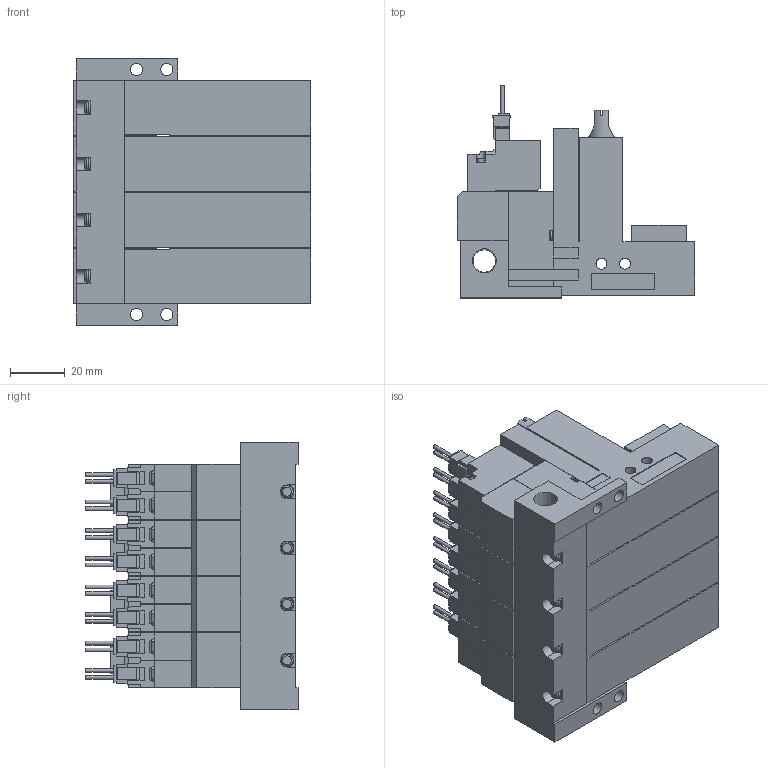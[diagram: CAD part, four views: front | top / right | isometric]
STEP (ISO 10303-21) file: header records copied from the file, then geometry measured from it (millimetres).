
FILE_DESCRIPTION(('STEP AP203'),'1');
FILE_NAME('ZL5BLR404.stp','2025-02-18T23:26:47',(' '),(' '),'Spatial InterOp 3D',' ',' ');
FILE_SCHEMA(('CONFIG_CONTROL_DESIGN'));
Length unit declared in the file: millimetre
Products named in the file (5): BMC22M※※※※ZL5BLR404; Solenoid valve B; Pressure sensor ZL; Unit L; Base MR40R
Assembly tree (13 placements, depth 2):
  BMC22M※※※※ZL5BLR404
    Solenoid valve B  x4
    Pressure sensor ZL  x4
    Unit L  x4
    Base MR40R
Bounding box: 86.6 x 77.45 x 97.5 mm (x, y, z)
Volume: 308298.6 mm3; surface area: 87983.8 mm2
Topology: 13 solids, 13 shells, 1309 faces, 3563 edges, 2352 vertices
Faces by surface type: plane 1126, cylinder 141, cone 30, torus 12
Full cylindrical faces by diameter (mm): 1.4 x16, 2.5 x4, 3 x16, 3.5 x16, 3.6 x4, 4 x8, 4.134 x4, 4.5 x4, 5.2 x4, 6 x4, 6.6 x4, 8.279 x1
Entity records: 12242 total; most frequent: CARTESIAN_POINT 2317, DIRECTION 1936, ORIENTED_EDGE 1928, EDGE_CURVE 964, LINE 792, VECTOR 792, VERTEX_POINT 673, AXIS2_PLACEMENT_3D 572
